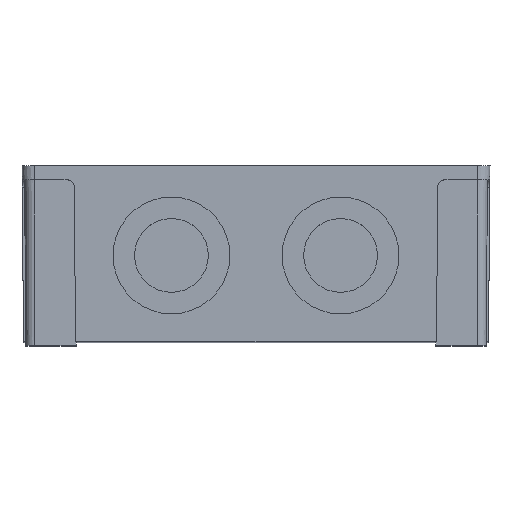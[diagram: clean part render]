
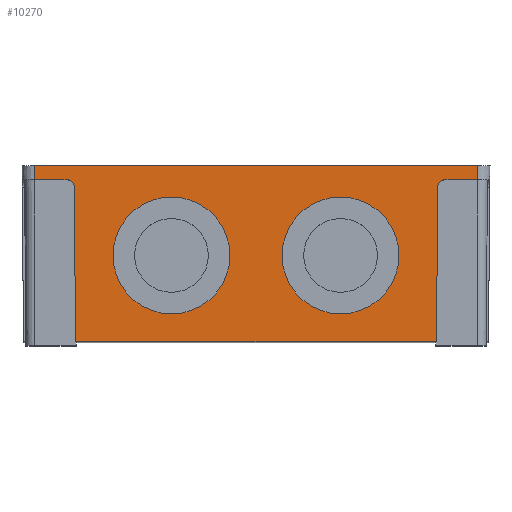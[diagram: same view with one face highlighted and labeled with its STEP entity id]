
A CAD part, top view. The second image highlights one B-rep face of the part: STEP entity #10270.
In plain terms, the highlighted planar face has unit normal (0, -0.009, 1).
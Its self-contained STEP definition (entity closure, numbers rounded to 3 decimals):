
#2053 = VERTEX_POINT ( 'NONE', #6502 ) ;
#2055 = EDGE_CURVE ( 'NONE', #2053, #2056, #6501, .T. ) ;
#2056 = VERTEX_POINT ( 'NONE', #6496 ) ;
#2067 = VERTEX_POINT ( 'NONE', #6538 ) ;
#2069 = EDGE_CURVE ( 'NONE', #2067, #2070, #6537, .T. ) ;
#2070 = VERTEX_POINT ( 'NONE', #6532 ) ;
#6496 = CARTESIAN_POINT ( 'NONE',  ( 23.5, -41.256, 89.69 ) ) ;
#6497 = DIRECTION ( 'NONE',  ( 0., 1., 0.009 ) ) ;
#6498 = DIRECTION ( 'NONE',  ( 0., -0.009, 1. ) ) ;
#6499 = CARTESIAN_POINT ( 'NONE',  ( 23.5, -25.007, 89.832 ) ) ;
#6500 = AXIS2_PLACEMENT_3D ( 'NONE', #6499, #6498, #6497 ) ;
#6501 = CIRCLE ( 'NONE', #6500, 16.25 ) ;
#6502 = CARTESIAN_POINT ( 'NONE',  ( 23.5, -8.757, 89.974 ) ) ;
#6532 = CARTESIAN_POINT ( 'NONE',  ( -23.5, -41.256, 89.69 ) ) ;
#6533 = DIRECTION ( 'NONE',  ( 0., -1., -0.009 ) ) ;
#6534 = DIRECTION ( 'NONE',  ( 0., -0.009, 1. ) ) ;
#6535 = CARTESIAN_POINT ( 'NONE',  ( -23.5, -25.007, 89.832 ) ) ;
#6536 = AXIS2_PLACEMENT_3D ( 'NONE', #6535, #6534, #6533 ) ;
#6537 = CIRCLE ( 'NONE', #6536, 16.25 ) ;
#6538 = CARTESIAN_POINT ( 'NONE',  ( -23.5, -8.757, 89.974 ) ) ;
#9178 = CARTESIAN_POINT ( 'NONE',  ( 50.157, -49., 89.622 ) ) ;
#9329 = CARTESIAN_POINT ( 'NONE',  ( -50.157, -49., 89.622 ) ) ;
#9330 = DIRECTION ( 'NONE',  ( 1., 0., 0. ) ) ;
#9331 = VECTOR ( 'NONE', #9330, 1000. ) ;
#9332 = CARTESIAN_POINT ( 'NONE',  ( -61.55, -49., 89.622 ) ) ;
#9333 = LINE ( 'NONE', #9332, #9331 ) ;
#9339 = CARTESIAN_POINT ( 'NONE',  ( -61.55, 0., 90.05 ) ) ;
#9340 = DIRECTION ( 'NONE',  ( 0., 1., 0.009 ) ) ;
#9341 = VECTOR ( 'NONE', #9340, 1000. ) ;
#9342 = CARTESIAN_POINT ( 'NONE',  ( -61.55, 0., 90.05 ) ) ;
#9343 = LINE ( 'NONE', #9342, #9341 ) ;
#9344 = CARTESIAN_POINT ( 'NONE',  ( -61.55, -4., 90.015 ) ) ;
#9366 = LINE ( 'NONE', #9414, #9413 ) ;
#9367 = CARTESIAN_POINT ( 'NONE',  ( 52.533, -4., 90.015 ) ) ;
#9368 = CARTESIAN_POINT ( 'NONE',  ( 50.533, -5.983, 89.998 ) ) ;
#9396 = FACE_OUTER_BOUND ( 'NONE', #10279, .T. ) ;
#9397 = FACE_BOUND ( 'NONE', #10275, .T. ) ;
#9398 = FACE_BOUND ( 'NONE', #10271, .T. ) ;
#9399 = DIRECTION ( 'NONE',  ( 0., 1., 0.009 ) ) ;
#9400 = VECTOR ( 'NONE', #9399, 1000. ) ;
#9401 = CARTESIAN_POINT ( 'NONE',  ( 61.55, 0., 90.05 ) ) ;
#9402 = LINE ( 'NONE', #9401, #9400 ) ;
#9403 = CARTESIAN_POINT ( 'NONE',  ( 61.55, 0., 90.05 ) ) ;
#9404 = DIRECTION ( 'NONE',  ( 1., 0., 0. ) ) ;
#9405 = VECTOR ( 'NONE', #9404, 1000. ) ;
#9406 = CARTESIAN_POINT ( 'NONE',  ( -61.55, -4., 90.015 ) ) ;
#9407 = LINE ( 'NONE', #9406, #9405 ) ;
#9408 = DIRECTION ( 'NONE',  ( 1., 0., 0. ) ) ;
#9409 = VECTOR ( 'NONE', #9408, 1000. ) ;
#9410 = CARTESIAN_POINT ( 'NONE',  ( -61.55, 0., 90.05 ) ) ;
#9411 = LINE ( 'NONE', #9410, #9409 ) ;
#9412 = DIRECTION ( 'NONE',  ( -1., 0., 0. ) ) ;
#9413 = VECTOR ( 'NONE', #9412, 1000. ) ;
#9414 = CARTESIAN_POINT ( 'NONE',  ( -61.55, -4., 90.015 ) ) ;
#9415 = CARTESIAN_POINT ( 'NONE',  ( 52.533, -4., 90.015 ) ) ;
#9416 = CARTESIAN_POINT ( 'NONE',  ( 51.369, -4., 90.015 ) ) ;
#9417 = CARTESIAN_POINT ( 'NONE',  ( 50.543, -4.819, 90.008 ) ) ;
#9418 = CARTESIAN_POINT ( 'NONE',  ( 50.533, -5.983, 89.998 ) ) ;
#9419 =( BOUNDED_CURVE ( )  B_SPLINE_CURVE ( 3, ( #9418, #9417, #9416, #9415 ),
 .UNSPECIFIED., .F., .T. ) 
 B_SPLINE_CURVE_WITH_KNOTS ( ( 4, 4 ),
 ( 1.58, 3.142 ),
 .UNSPECIFIED. ) 
 CURVE ( )  GEOMETRIC_REPRESENTATION_ITEM ( )  RATIONAL_B_SPLINE_CURVE ( ( 1., 0.807, 0.807, 1. ) ) 
 REPRESENTATION_ITEM ( '' )  );
#9439 = DIRECTION ( 'NONE',  ( 0., -1., -0.009 ) ) ;
#9440 = DIRECTION ( 'NONE',  ( 0., -0.009, 1. ) ) ;
#9441 = CARTESIAN_POINT ( 'NONE',  ( -23.5, -25.007, 89.832 ) ) ;
#9442 = AXIS2_PLACEMENT_3D ( 'NONE', #9441, #9440, #9439 ) ;
#9443 = CIRCLE ( 'NONE', #9442, 16.25 ) ;
#9444 = DIRECTION ( 'NONE',  ( 0., 1., 0.009 ) ) ;
#9445 = DIRECTION ( 'NONE',  ( 0., -0.009, 1. ) ) ;
#9446 = CARTESIAN_POINT ( 'NONE',  ( 23.5, -25.007, 89.832 ) ) ;
#9447 = AXIS2_PLACEMENT_3D ( 'NONE', #9446, #9445, #9444 ) ;
#9448 = CIRCLE ( 'NONE', #9447, 16.25 ) ;
#9449 = DIRECTION ( 'NONE',  ( 0., -1., -0.009 ) ) ;
#9450 = DIRECTION ( 'NONE',  ( 0., -0.009, 1. ) ) ;
#9451 = CARTESIAN_POINT ( 'NONE',  ( -61.55, 0., 90.05 ) ) ;
#9452 = AXIS2_PLACEMENT_3D ( 'NONE', #9451, #9450, #9449 ) ;
#9453 = PLANE ( 'NONE',  #9452 ) ;
#9480 = CARTESIAN_POINT ( 'NONE',  ( 61.55, -4., 90.015 ) ) ;
#9508 = DIRECTION ( 'NONE',  ( -0.009, 1., 0.009 ) ) ;
#9509 = VECTOR ( 'NONE', #9508, 1000. ) ;
#9510 = CARTESIAN_POINT ( 'NONE',  ( -50.586, 0.096, 90.051 ) ) ;
#9512 = CARTESIAN_POINT ( 'NONE',  ( -50.533, -5.983, 89.998 ) ) ;
#9513 = CARTESIAN_POINT ( 'NONE',  ( -50.543, -4.819, 90.008 ) ) ;
#9514 = CARTESIAN_POINT ( 'NONE',  ( -51.369, -4., 90.015 ) ) ;
#9515 = CARTESIAN_POINT ( 'NONE',  ( -52.533, -4., 90.015 ) ) ;
#9516 =( BOUNDED_CURVE ( )  B_SPLINE_CURVE ( 3, ( #9515, #9514, #9513, #9512 ),
 .UNSPECIFIED., .F., .T. ) 
 B_SPLINE_CURVE_WITH_KNOTS ( ( 4, 4 ),
 ( 3.142, 4.704 ),
 .UNSPECIFIED. ) 
 CURVE ( )  GEOMETRIC_REPRESENTATION_ITEM ( )  RATIONAL_B_SPLINE_CURVE ( ( 1., 0.807, 0.807, 1. ) ) 
 REPRESENTATION_ITEM ( '' )  );
#9517 = LINE ( 'NONE', #9510, #9509 ) ;
#9518 = CARTESIAN_POINT ( 'NONE',  ( -50.533, -5.983, 89.998 ) ) ;
#9519 = CARTESIAN_POINT ( 'NONE',  ( -52.533, -4., 90.015 ) ) ;
#9544 = DIRECTION ( 'NONE',  ( -0.009, -1., -0.009 ) ) ;
#9545 = VECTOR ( 'NONE', #9544, 1000. ) ;
#9546 = CARTESIAN_POINT ( 'NONE',  ( 50.576, -0.978, 90.041 ) ) ;
#9547 = LINE ( 'NONE', #9546, #9545 ) ;
#10143 = VERTEX_POINT ( 'NONE', #9178 ) ;
#10209 = EDGE_CURVE ( 'NONE', #10210, #10143, #9333, .T. ) ;
#10210 = VERTEX_POINT ( 'NONE', #9329 ) ;
#10234 = VERTEX_POINT ( 'NONE', #9344 ) ;
#10236 = EDGE_CURVE ( 'NONE', #10234, #10237, #9343, .T. ) ;
#10237 = VERTEX_POINT ( 'NONE', #9339 ) ;
#10255 = VERTEX_POINT ( 'NONE', #9368 ) ;
#10256 = ORIENTED_EDGE ( 'NONE', *, *, #10257, .T. ) ;
#10257 = EDGE_CURVE ( 'NONE', #10255, #10258, #9419, .T. ) ;
#10258 = VERTEX_POINT ( 'NONE', #9367 ) ;
#10259 = ORIENTED_EDGE ( 'NONE', *, *, #10260, .F. ) ;
#10260 = EDGE_CURVE ( 'NONE', #10290, #10258, #9366, .T. ) ;
#10261 = ORIENTED_EDGE ( 'NONE', *, *, #10269, .T. ) ;
#10262 = ORIENTED_EDGE ( 'NONE', *, *, #10263, .F. ) ;
#10263 = EDGE_CURVE ( 'NONE', #10237, #10267, #9411, .T. ) ;
#10264 = ORIENTED_EDGE ( 'NONE', *, *, #10236, .F. ) ;
#10265 = ORIENTED_EDGE ( 'NONE', *, *, #10266, .T. ) ;
#10266 = EDGE_CURVE ( 'NONE', #10234, #10324, #9407, .T. ) ;
#10267 = VERTEX_POINT ( 'NONE', #9403 ) ;
#10269 = EDGE_CURVE ( 'NONE', #10290, #10267, #9402, .T. ) ;
#10270 = ADVANCED_FACE ( 'NONE', ( #9398, #9397, #9396 ), #9453, .T. ) ;
#10271 = EDGE_LOOP ( 'NONE', ( #10272, #10274 ) ) ;
#10272 = ORIENTED_EDGE ( 'NONE', *, *, #10273, .F. ) ;
#10273 = EDGE_CURVE ( 'NONE', #2056, #2053, #9448, .T. ) ;
#10274 = ORIENTED_EDGE ( 'NONE', *, *, #2055, .F. ) ;
#10275 = EDGE_LOOP ( 'NONE', ( #10276, #10278 ) ) ;
#10276 = ORIENTED_EDGE ( 'NONE', *, *, #10277, .F. ) ;
#10277 = EDGE_CURVE ( 'NONE', #2070, #2067, #9443, .T. ) ;
#10278 = ORIENTED_EDGE ( 'NONE', *, *, #2069, .F. ) ;
#10279 = EDGE_LOOP ( 'NONE', ( #10337, #10256, #10259, #10261, #10262, #10264, #10265, #10325, #10328, #10330 ) ) ;
#10290 = VERTEX_POINT ( 'NONE', #9480 ) ;
#10324 = VERTEX_POINT ( 'NONE', #9519 ) ;
#10325 = ORIENTED_EDGE ( 'NONE', *, *, #10326, .T. ) ;
#10326 = EDGE_CURVE ( 'NONE', #10324, #10327, #9516, .T. ) ;
#10327 = VERTEX_POINT ( 'NONE', #9518 ) ;
#10328 = ORIENTED_EDGE ( 'NONE', *, *, #10329, .F. ) ;
#10329 = EDGE_CURVE ( 'NONE', #10210, #10327, #9517, .T. ) ;
#10330 = ORIENTED_EDGE ( 'NONE', *, *, #10209, .T. ) ;
#10337 = ORIENTED_EDGE ( 'NONE', *, *, #10338, .F. ) ;
#10338 = EDGE_CURVE ( 'NONE', #10255, #10143, #9547, .T. ) ;
